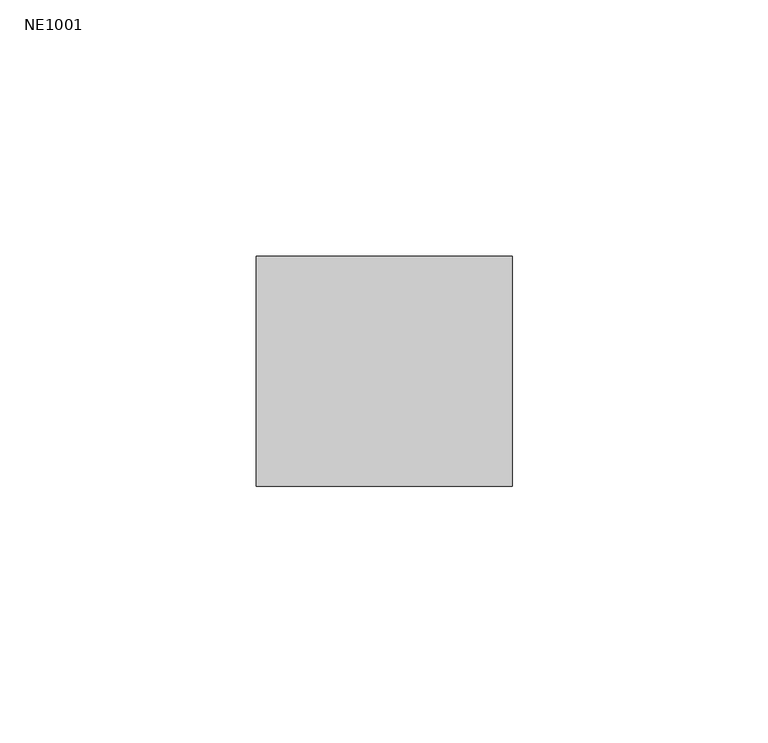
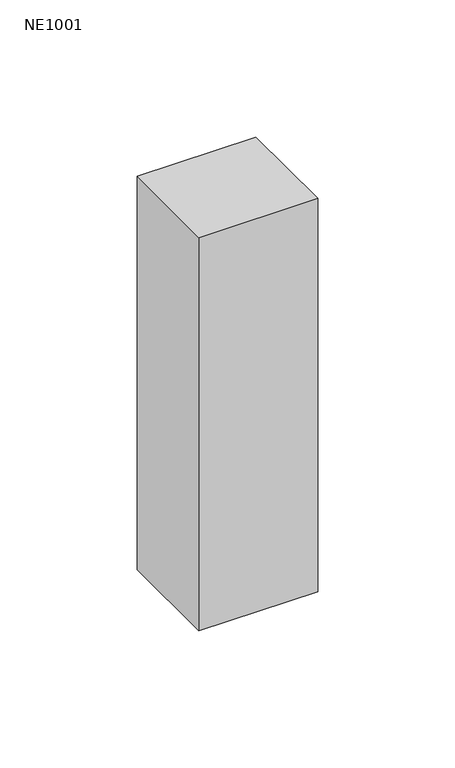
"""IFC4 building model written with IfcOpenShell, lengths in millimetres: proxy geometry, КНС_ШинаУравниванияПотенциалов_DKC : NE1001."""

from ifc_helpers import new_model, si_unit, frame, origin, place, context, project, spatial, polyline, outline, extrude, source, transform, mapped, element, save


def ne1001_6f877555(model_context):
    return source(origin(), model_context, "Body", "SweptSolid", [
        extrude(outline(polyline([(25.0, -45.0), (-25.0, -45.0), (-25.0, 0.0), (25.0, 0.0), (25.0, -45.0)])), frame((0.0, 0.0, -87.5), z_axis=(0.0, 0.0, 1.0), x_axis=(1.0, 0.0, 0.0)), (0.0, 0.0, 1.0), 175.0),
    ])


if __name__ == "__main__":
    model = new_model("IFC4")
    model_context = context("Model", 3, world=origin())
    ifc_project = project(units=[si_unit("LENGTHUNIT", "METRE", prefix="MILLI")], contexts=[model_context])
    site = spatial("IfcSite", under=ifc_project)
    building = spatial("IfcBuilding", under=site)
    placement = place(None, origin())
    ne1001_shape = ne1001_6f877555(model_context)
    element("IfcBuildingElementProxy", 1, Name="КНС_ШинаУравниванияПотенциалов_DKC : NE1001", ObjectType="КНС_ШинаУравниванияПотенциалов_DKC : NE1001", at=placement, inside=building, context=model_context, shape_type="MappedRepresentation", body=[
        mapped(ne1001_shape, transform((0.0, 0.0, 0.0), x_axis=(1.0, 0.0, 0.0), y_axis=(0.0, 1.0, 0.0), z_axis=(0.0, 0.0, 1.0))),
    ])
    save(model, "model.ifc")
